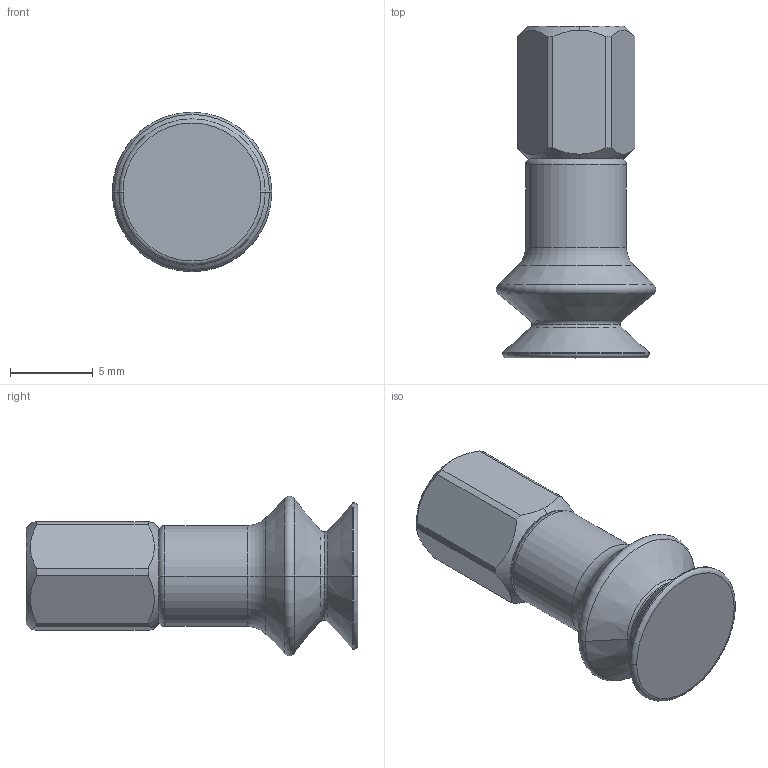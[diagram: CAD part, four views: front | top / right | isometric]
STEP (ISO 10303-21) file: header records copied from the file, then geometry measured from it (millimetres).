
FILE_DESCRIPTION (( 'STEP AP203' ), '1' );
FILE_NAME ('XP-B8-4F-PUBLIC.STEP', '2011-05-13T19:47:04', ( '' ), ( '' ), 'SwSTEP 2.0', 'SolidWorks 2011', '' );
FILE_SCHEMA (( 'CONFIG_CONTROL_DESIGN' ));
Length unit declared in the file: inch
Products named in the file (1): XP-B8-4F-PUBLIC
Bounding box: 9.64 x 20.04 x 9.64 mm (x, y, z)
Volume: 675 mm3; surface area: 656.4 mm2
Topology: 1 solids, 2 shells, 50 faces, 110 edges, 66 vertices
Faces by surface type: cylinder 14, torus 12, cone 12, plane 12
Entity records: 1553 total; most frequent: CARTESIAN_POINT 355, DIRECTION 258, ORIENTED_EDGE 220, AXIS2_PLACEMENT_3D 113, EDGE_CURVE 110, VERTEX_POINT 66, CIRCLE 62, EDGE_LOOP 52
